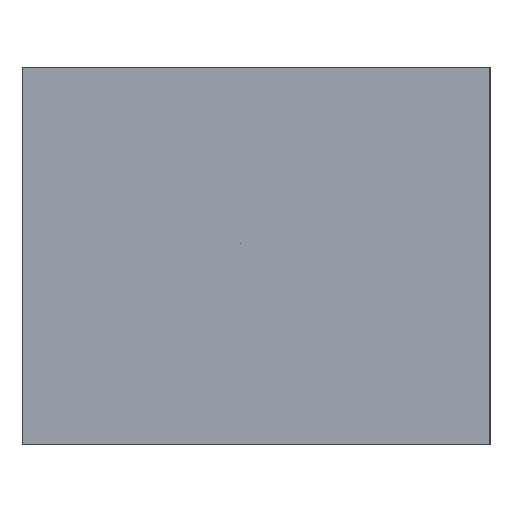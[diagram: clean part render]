
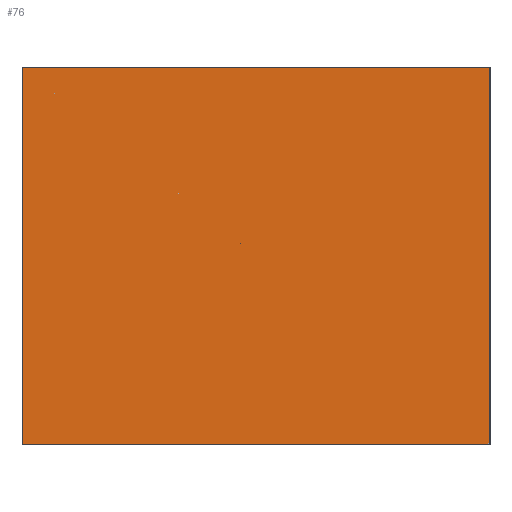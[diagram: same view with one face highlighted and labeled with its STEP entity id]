
A CAD part, left-side view. The second image highlights one B-rep face of the part: STEP entity #76.
In plain terms, the highlighted planar face has unit normal (-1, 0, 0).
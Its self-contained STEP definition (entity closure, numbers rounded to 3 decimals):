
#71=FACE_OUTER_BOUND('',#266,.T.);
#76=ADVANCED_FACE('',(#71),#119,.T.);
#119=PLANE('',#615);
#136=LINE('',#878,#148);
#138=LINE('',#890,#150);
#143=LINE('',#914,#155);
#144=LINE('',#916,#156);
#148=VECTOR('',#692,1.);
#150=VECTOR('',#704,1.);
#155=VECTOR('',#725,1.);
#156=VECTOR('',#728,1.);
#266=EDGE_LOOP('',(#365,#366,#367,#368));
#365=ORIENTED_EDGE('',*,*,#506,.T.);
#366=ORIENTED_EDGE('',*,*,#524,.T.);
#367=ORIENTED_EDGE('',*,*,#512,.F.);
#368=ORIENTED_EDGE('',*,*,#525,.T.);
#452=VERTEX_POINT('',#877);
#453=VERTEX_POINT('',#879);
#458=VERTEX_POINT('',#891);
#459=VERTEX_POINT('',#892);
#506=EDGE_CURVE('',#453,#452,#136,.T.);
#512=EDGE_CURVE('',#458,#459,#138,.T.);
#524=EDGE_CURVE('',#452,#459,#143,.T.);
#525=EDGE_CURVE('',#458,#453,#144,.T.);
#615=AXIS2_PLACEMENT_3D('',#917,#729,#730);
#692=DIRECTION('',(0.,0.,1.));
#704=DIRECTION('',(0.,0.,1.));
#725=DIRECTION('',(0.,1.,0.));
#728=DIRECTION('',(0.,-1.,0.));
#729=DIRECTION('',(-1.,0.,0.));
#730=DIRECTION('',(0.,0.,1.));
#877=CARTESIAN_POINT('',(-42.,-31.,0.));
#878=CARTESIAN_POINT('',(-42.,-31.,-50.));
#879=CARTESIAN_POINT('',(-42.,-31.,-50.));
#890=CARTESIAN_POINT('',(-42.,31.,-50.));
#891=CARTESIAN_POINT('',(-42.,31.,-50.));
#892=CARTESIAN_POINT('',(-42.,31.,0.));
#914=CARTESIAN_POINT('',(-42.,0.,0.));
#916=CARTESIAN_POINT('',(-42.,0.,-50.));
#917=CARTESIAN_POINT('',(-42.,0.,-50.));
